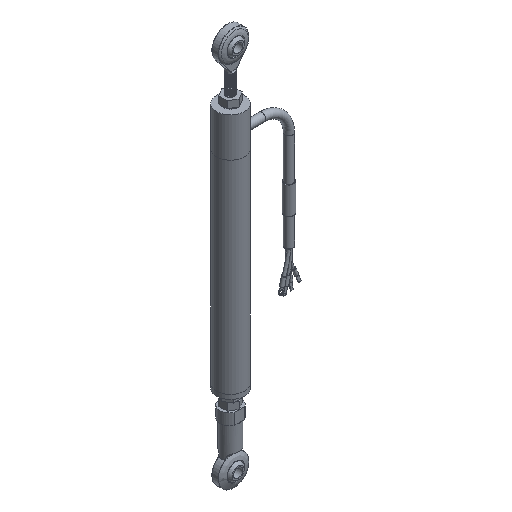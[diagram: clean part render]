
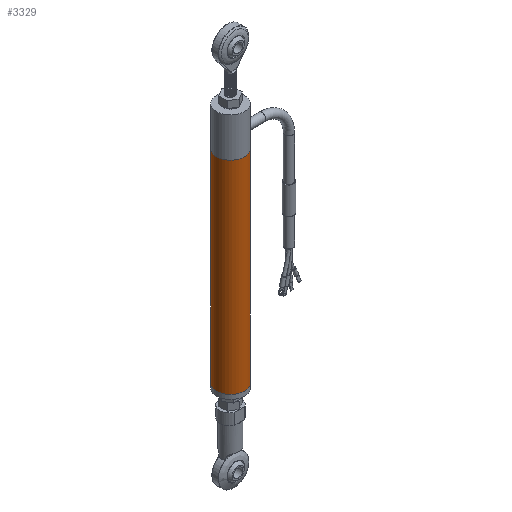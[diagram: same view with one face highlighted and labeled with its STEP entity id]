
A CAD part, isometric view. The second image highlights one B-rep face of the part: STEP entity #3329.
In plain terms, the highlighted cylindrical face has radius 6.35 mm (diameter 12.7 mm), a full revolution.
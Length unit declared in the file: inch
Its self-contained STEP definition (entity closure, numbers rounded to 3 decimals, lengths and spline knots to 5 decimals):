
#248=LINE('',#8165,#453);
#453=VECTOR('',#4234,0.25);
#633=CYLINDRICAL_SURFACE('',#3719,0.25);
#744=FACE_OUTER_BOUND('',#956,.T.);
#956=EDGE_LOOP('',(#2470,#2471,#2472,#2473,#2474));
#1140=CIRCLE('',#3711,0.25);
#1142=CIRCLE('',#3717,0.25);
#1143=CIRCLE('',#3718,0.25);
#1463=VERTEX_POINT('',#8108);
#1468=VERTEX_POINT('',#8159);
#1469=VERTEX_POINT('',#8161);
#1826=EDGE_CURVE('',#1463,#1463,#1140,.T.);
#1833=EDGE_CURVE('',#1469,#1468,#1142,.T.);
#1834=EDGE_CURVE('',#1468,#1469,#1143,.T.);
#1835=EDGE_CURVE('',#1463,#1469,#248,.T.);
#2470=ORIENTED_EDGE('',*,*,#1826,.F.);
#2471=ORIENTED_EDGE('',*,*,#1835,.T.);
#2472=ORIENTED_EDGE('',*,*,#1833,.T.);
#2473=ORIENTED_EDGE('',*,*,#1834,.T.);
#2474=ORIENTED_EDGE('',*,*,#1835,.F.);
#3329=ADVANCED_FACE('',(#744),#633,.T.);
#3711=AXIS2_PLACEMENT_3D('',#8110,#4214,#4215);
#3717=AXIS2_PLACEMENT_3D('',#8162,#4228,#4229);
#3718=AXIS2_PLACEMENT_3D('',#8163,#4230,#4231);
#3719=AXIS2_PLACEMENT_3D('',#8164,#4232,#4233);
#4214=DIRECTION('center_axis',(0.,0.,-1.));
#4215=DIRECTION('ref_axis',(-1.,0.,0.));
#4228=DIRECTION('center_axis',(0.,0.,-1.));
#4229=DIRECTION('ref_axis',(-1.,0.,0.));
#4230=DIRECTION('center_axis',(0.,0.,-1.));
#4231=DIRECTION('ref_axis',(-1.,0.,0.));
#4232=DIRECTION('center_axis',(0.,0.,-1.));
#4233=DIRECTION('ref_axis',(-1.,0.,0.));
#4234=DIRECTION('',(0.,0.,1.));
#8108=CARTESIAN_POINT('',(0.25,0.,-4.32283));
#8110=CARTESIAN_POINT('Origin',(0.,0.,-4.32283));
#8159=CARTESIAN_POINT('',(-0.25,0.,-0.7));
#8161=CARTESIAN_POINT('',(0.25,0.,-0.7));
#8162=CARTESIAN_POINT('Origin',(0.,0.,-0.7));
#8163=CARTESIAN_POINT('Origin',(0.,0.,-0.7));
#8164=CARTESIAN_POINT('Origin',(0.,0.,0.));
#8165=CARTESIAN_POINT('',(0.25,0.,0.));
